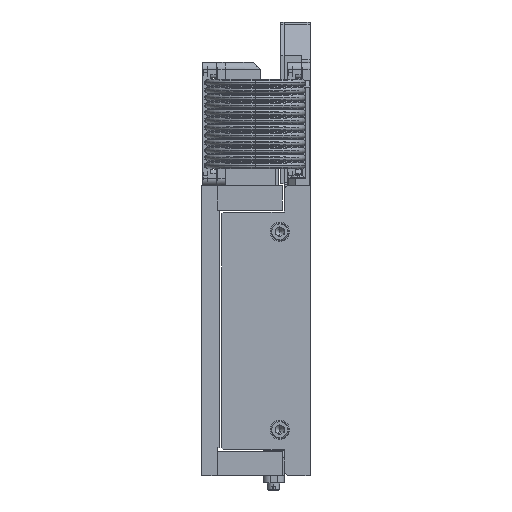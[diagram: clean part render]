
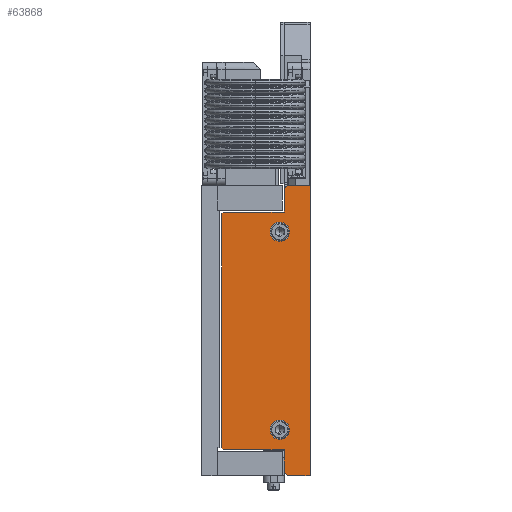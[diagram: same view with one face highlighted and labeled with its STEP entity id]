
A CAD part, left-side view. The second image highlights one B-rep face of the part: STEP entity #63868.
In plain terms, the highlighted planar face has unit normal (-1, 0, 0).
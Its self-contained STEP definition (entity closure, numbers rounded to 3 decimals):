
#59 = EDGE_CURVE ( 'NONE', #73363, #37706, #59645, .T. ) ;
#1115 = CARTESIAN_POINT ( 'NONE',  ( -265., 15., -67.5 ) ) ;
#1266 = DIRECTION ( 'NONE',  ( -1., 0., 0. ) ) ;
#1319 = CARTESIAN_POINT ( 'NONE',  ( -265., 0.25, -82.5 ) ) ;
#1628 = CARTESIAN_POINT ( 'NONE',  ( -265., 0.25, 82.5 ) ) ;
#1665 = CARTESIAN_POINT ( 'NONE',  ( -265., 17.5, -56.25 ) ) ;
#2397 = DIRECTION ( 'NONE',  ( 0., 0., 1. ) ) ;
#5124 = ORIENTED_EDGE ( 'NONE', *, *, #29489, .T. ) ;
#5386 = VERTEX_POINT ( 'NONE', #73111 ) ;
#5432 = EDGE_LOOP ( 'NONE', ( #52346, #110536 ) ) ;
#5458 = DIRECTION ( 'NONE',  ( 0., -1., 0. ) ) ;
#5684 = ORIENTED_EDGE ( 'NONE', *, *, #11520, .T. ) ;
#5867 = DIRECTION ( 'NONE',  ( 0., 0., -1. ) ) ;
#7076 = CARTESIAN_POINT ( 'NONE',  ( -265., 15., 67.5 ) ) ;
#8965 = ORIENTED_EDGE ( 'NONE', *, *, #84350, .T. ) ;
#9141 = LINE ( 'NONE', #78554, #64789 ) ;
#9160 = EDGE_LOOP ( 'NONE', ( #8965, #24521, #72827, #5124, #58409, #110111, #12185, #38206, #12517, #5684, #22981, #17078 ) ) ;
#11520 = EDGE_CURVE ( 'NONE', #37706, #60105, #90119, .T. ) ;
#12185 = ORIENTED_EDGE ( 'NONE', *, *, #22265, .T. ) ;
#12517 = ORIENTED_EDGE ( 'NONE', *, *, #59, .T. ) ;
#15380 = DIRECTION ( 'NONE',  ( 0., 0., 1. ) ) ;
#16054 = DIRECTION ( 'NONE',  ( -1., 0., 0. ) ) ;
#16734 = VERTEX_POINT ( 'NONE', #22312 ) ;
#17078 = ORIENTED_EDGE ( 'NONE', *, *, #76266, .T. ) ;
#20658 = DIRECTION ( 'NONE',  ( 0., -0.707, -0.707 ) ) ;
#20813 = DIRECTION ( 'NONE',  ( 0., 0., 1. ) ) ;
#22265 = EDGE_CURVE ( 'NONE', #16734, #30601, #78995, .T. ) ;
#22312 = CARTESIAN_POINT ( 'NONE',  ( -265., 50.5, 66.5 ) ) ;
#22727 = EDGE_CURVE ( 'NONE', #92958, #36417, #27093, .T. ) ;
#22981 = ORIENTED_EDGE ( 'NONE', *, *, #50372, .T. ) ;
#24521 = ORIENTED_EDGE ( 'NONE', *, *, #83602, .T. ) ;
#25508 = DIRECTION ( 'NONE',  ( 0., 0., -1. ) ) ;
#25723 = LINE ( 'NONE', #112019, #68456 ) ;
#25881 = AXIS2_PLACEMENT_3D ( 'NONE', #108641, #16054, #34418 ) ;
#27084 = VECTOR ( 'NONE', #117070, 1000. ) ;
#27093 = CIRCLE ( 'NONE', #113001, 5.5 ) ;
#29489 = EDGE_CURVE ( 'NONE', #86310, #109236, #97271, .T. ) ;
#30409 = CIRCLE ( 'NONE', #52103, 5.5 ) ;
#30601 = VERTEX_POINT ( 'NONE', #68831 ) ;
#31815 = CARTESIAN_POINT ( 'NONE',  ( -265., 13.05, 82.5 ) ) ;
#33153 = CARTESIAN_POINT ( 'NONE',  ( -265., 13.05, 82.5 ) ) ;
#34418 = DIRECTION ( 'NONE',  ( 0., 0., 1. ) ) ;
#36417 = VERTEX_POINT ( 'NONE', #58875 ) ;
#37111 = VECTOR ( 'NONE', #43379, 1000. ) ;
#37706 = VERTEX_POINT ( 'NONE', #1115 ) ;
#38206 = ORIENTED_EDGE ( 'NONE', *, *, #40136, .T. ) ;
#38335 = DIRECTION ( 'NONE',  ( -1., 0., 0. ) ) ;
#39966 = CARTESIAN_POINT ( 'NONE',  ( -265., 17.5, -50.75 ) ) ;
#40136 = EDGE_CURVE ( 'NONE', #30601, #73363, #88451, .T. ) ;
#40298 = AXIS2_PLACEMENT_3D ( 'NONE', #41795, #104502, #5867 ) ;
#41795 = CARTESIAN_POINT ( 'NONE',  ( -265., 0., 0. ) ) ;
#42408 = VERTEX_POINT ( 'NONE', #88468 ) ;
#43379 = DIRECTION ( 'NONE',  ( 0., 0.707, -0.707 ) ) ;
#43883 = VERTEX_POINT ( 'NONE', #55658 ) ;
#43942 = EDGE_CURVE ( 'NONE', #78468, #43883, #30409, .T. ) ;
#44478 = LINE ( 'NONE', #1628, #98790 ) ;
#46040 = VERTEX_POINT ( 'NONE', #1319 ) ;
#46373 = LINE ( 'NONE', #105504, #86368 ) ;
#50110 = VECTOR ( 'NONE', #111573, 1000. ) ;
#50372 = EDGE_CURVE ( 'NONE', #60105, #5386, #25723, .T. ) ;
#50536 = CIRCLE ( 'NONE', #25881, 5.5 ) ;
#50551 = CARTESIAN_POINT ( 'NONE',  ( -265., 17.5, 56.25 ) ) ;
#52103 = AXIS2_PLACEMENT_3D ( 'NONE', #86011, #38335, #2397 ) ;
#52346 = ORIENTED_EDGE ( 'NONE', *, *, #22727, .F. ) ;
#52673 = CIRCLE ( 'NONE', #59110, 5.5 ) ;
#53377 = CARTESIAN_POINT ( 'NONE',  ( -265., 49.5, -67.5 ) ) ;
#53914 = CARTESIAN_POINT ( 'NONE',  ( -265., 49.5, -67.5 ) ) ;
#53964 = VECTOR ( 'NONE', #97540, 1000. ) ;
#54801 = VECTOR ( 'NONE', #57873, 1000. ) ;
#54981 = FACE_BOUND ( 'NONE', #5432, .T. ) ;
#55658 = CARTESIAN_POINT ( 'NONE',  ( -265., 17.5, 50.75 ) ) ;
#57873 = DIRECTION ( 'NONE',  ( 0., 0.707, -0.707 ) ) ;
#58409 = ORIENTED_EDGE ( 'NONE', *, *, #101155, .T. ) ;
#58875 = CARTESIAN_POINT ( 'NONE',  ( -265., 17.5, -61.75 ) ) ;
#58904 = DIRECTION ( 'NONE',  ( 0., 0., -1. ) ) ;
#59110 = AXIS2_PLACEMENT_3D ( 'NONE', #50551, #96836, #15380 ) ;
#59645 = LINE ( 'NONE', #70354, #53964 ) ;
#60105 = VERTEX_POINT ( 'NONE', #76554 ) ;
#63868 = ADVANCED_FACE ( 'NONE', ( #54981, #100730, #89276 ), #114082, .F. ) ;
#64027 = VECTOR ( 'NONE', #25508, 1000. ) ;
#64789 = VECTOR ( 'NONE', #5458, 1000. ) ;
#65084 = DIRECTION ( 'NONE',  ( 0., 0., 1. ) ) ;
#68226 = EDGE_CURVE ( 'NONE', #111148, #86310, #107071, .T. ) ;
#68456 = VECTOR ( 'NONE', #20658, 1000. ) ;
#68831 = CARTESIAN_POINT ( 'NONE',  ( -265., 50.5, -66.5 ) ) ;
#69161 = DIRECTION ( 'NONE',  ( 0., 1., 0. ) ) ;
#69943 = CARTESIAN_POINT ( 'NONE',  ( -265., 15., 67.5 ) ) ;
#70106 = CARTESIAN_POINT ( 'NONE',  ( -265., 15., 80.55 ) ) ;
#70354 = CARTESIAN_POINT ( 'NONE',  ( -265., 15., -67.5 ) ) ;
#71844 = LINE ( 'NONE', #31815, #91812 ) ;
#72827 = ORIENTED_EDGE ( 'NONE', *, *, #68226, .T. ) ;
#73111 = CARTESIAN_POINT ( 'NONE',  ( -265., 13.05, -82.5 ) ) ;
#73363 = VERTEX_POINT ( 'NONE', #53377 ) ;
#74863 = CARTESIAN_POINT ( 'NONE',  ( -265., 15., -80.55 ) ) ;
#76266 = EDGE_CURVE ( 'NONE', #5386, #46040, #9141, .T. ) ;
#76554 = CARTESIAN_POINT ( 'NONE',  ( -265., 15., -80.55 ) ) ;
#78468 = VERTEX_POINT ( 'NONE', #103910 ) ;
#78554 = CARTESIAN_POINT ( 'NONE',  ( -265., 0.25, -82.5 ) ) ;
#78995 = LINE ( 'NONE', #86279, #106086 ) ;
#82802 = EDGE_CURVE ( 'NONE', #36417, #92958, #50536, .T. ) ;
#82815 = ORIENTED_EDGE ( 'NONE', *, *, #43942, .F. ) ;
#83401 = CARTESIAN_POINT ( 'NONE',  ( -265., 0.25, 82.5 ) ) ;
#83602 = EDGE_CURVE ( 'NONE', #95364, #111148, #71844, .T. ) ;
#84350 = EDGE_CURVE ( 'NONE', #46040, #95364, #44478, .T. ) ;
#86011 = CARTESIAN_POINT ( 'NONE',  ( -265., 17.5, 56.25 ) ) ;
#86279 = CARTESIAN_POINT ( 'NONE',  ( -265., 50.5, -66.5 ) ) ;
#86310 = VERTEX_POINT ( 'NONE', #111985 ) ;
#86368 = VECTOR ( 'NONE', #69161, 1000. ) ;
#88451 = LINE ( 'NONE', #53914, #27084 ) ;
#88468 = CARTESIAN_POINT ( 'NONE',  ( -265., 49.5, 67.5 ) ) ;
#89276 = FACE_OUTER_BOUND ( 'NONE', #9160, .T. ) ;
#89442 = EDGE_LOOP ( 'NONE', ( #82815, #90335 ) ) ;
#90119 = LINE ( 'NONE', #74863, #50110 ) ;
#90335 = ORIENTED_EDGE ( 'NONE', *, *, #108522, .F. ) ;
#91699 = EDGE_CURVE ( 'NONE', #42408, #16734, #100544, .T. ) ;
#91812 = VECTOR ( 'NONE', #95270, 1000. ) ;
#92958 = VERTEX_POINT ( 'NONE', #39966 ) ;
#95270 = DIRECTION ( 'NONE',  ( 0., 1., 0. ) ) ;
#95364 = VERTEX_POINT ( 'NONE', #83401 ) ;
#96836 = DIRECTION ( 'NONE',  ( -1., 0., 0. ) ) ;
#97271 = LINE ( 'NONE', #7076, #64027 ) ;
#97540 = DIRECTION ( 'NONE',  ( 0., -1., 0. ) ) ;
#98790 = VECTOR ( 'NONE', #20813, 1000. ) ;
#100544 = LINE ( 'NONE', #112593, #54801 ) ;
#100730 = FACE_BOUND ( 'NONE', #89442, .T. ) ;
#101155 = EDGE_CURVE ( 'NONE', #109236, #42408, #46373, .T. ) ;
#103910 = CARTESIAN_POINT ( 'NONE',  ( -265., 17.5, 61.75 ) ) ;
#104502 = DIRECTION ( 'NONE',  ( 1., 0., 0. ) ) ;
#105504 = CARTESIAN_POINT ( 'NONE',  ( -265., 49.5, 67.5 ) ) ;
#106086 = VECTOR ( 'NONE', #58904, 1000. ) ;
#107071 = LINE ( 'NONE', #70106, #37111 ) ;
#108522 = EDGE_CURVE ( 'NONE', #43883, #78468, #52673, .T. ) ;
#108641 = CARTESIAN_POINT ( 'NONE',  ( -265., 17.5, -56.25 ) ) ;
#109236 = VERTEX_POINT ( 'NONE', #69943 ) ;
#110111 = ORIENTED_EDGE ( 'NONE', *, *, #91699, .T. ) ;
#110536 = ORIENTED_EDGE ( 'NONE', *, *, #82802, .F. ) ;
#111148 = VERTEX_POINT ( 'NONE', #33153 ) ;
#111573 = DIRECTION ( 'NONE',  ( 0., 0., -1. ) ) ;
#111985 = CARTESIAN_POINT ( 'NONE',  ( -265., 15., 80.55 ) ) ;
#112019 = CARTESIAN_POINT ( 'NONE',  ( -265., 13.05, -82.5 ) ) ;
#112593 = CARTESIAN_POINT ( 'NONE',  ( -265., 50.5, 66.5 ) ) ;
#113001 = AXIS2_PLACEMENT_3D ( 'NONE', #1665, #1266, #65084 ) ;
#114082 = PLANE ( 'NONE',  #40298 ) ;
#117070 = DIRECTION ( 'NONE',  ( 0., -0.707, -0.707 ) ) ;
